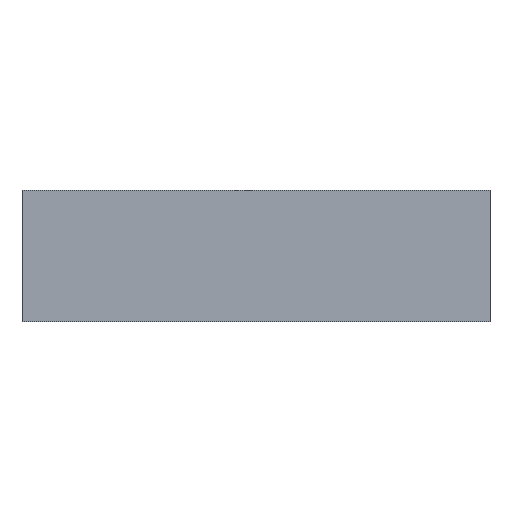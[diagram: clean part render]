
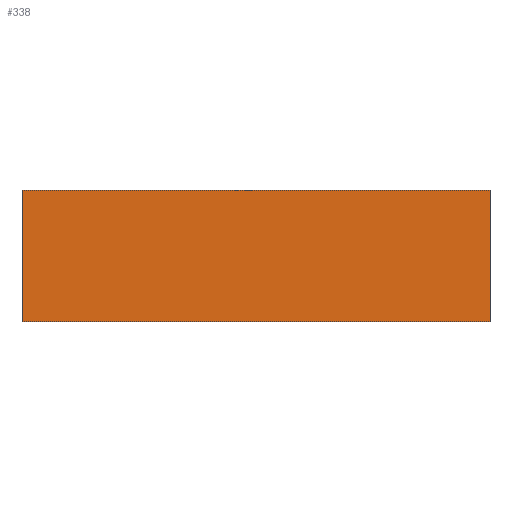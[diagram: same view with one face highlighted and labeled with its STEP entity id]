
A CAD part, top view. The second image highlights one B-rep face of the part: STEP entity #338.
In plain terms, the highlighted planar face has unit normal (0, 0, 1).
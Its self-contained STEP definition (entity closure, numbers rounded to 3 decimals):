
#24 = VERTEX_POINT('',#25);
#25 = CARTESIAN_POINT('',(-213.5,-99.,-0.62));
#32 = PLANE('',#33);
#33 = AXIS2_PLACEMENT_3D('',#34,#35,#36);
#34 = CARTESIAN_POINT('',(-213.5,-99.,-2.62));
#35 = DIRECTION('',(1.,0.,0.));
#36 = DIRECTION('',(0.,0.,1.));
#44 = PLANE('',#45);
#45 = AXIS2_PLACEMENT_3D('',#46,#47,#48);
#46 = CARTESIAN_POINT('',(-213.5,-99.,-2.62));
#47 = DIRECTION('',(0.,1.,0.));
#48 = DIRECTION('',(0.,0.,1.));
#85 = VERTEX_POINT('',#86);
#86 = CARTESIAN_POINT('',(-213.5,-85.,-0.62));
#100 = PLANE('',#101);
#101 = AXIS2_PLACEMENT_3D('',#102,#103,#104);
#102 = CARTESIAN_POINT('',(-213.5,-85.,-2.62));
#103 = DIRECTION('',(0.,1.,0.));
#104 = DIRECTION('',(0.,0.,1.));
#112 = EDGE_CURVE('',#24,#85,#113,.T.);
#113 = SURFACE_CURVE('',#114,(#118,#125),.PCURVE_S1.);
#114 = LINE('',#115,#116);
#115 = CARTESIAN_POINT('',(-213.5,-99.,-0.62));
#116 = VECTOR('',#117,1.);
#117 = DIRECTION('',(0.,1.,0.));
#118 = PCURVE('',#32,#119);
#119 = DEFINITIONAL_REPRESENTATION('',(#120),#124);
#120 = LINE('',#121,#122);
#121 = CARTESIAN_POINT('',(2.,0.));
#122 = VECTOR('',#123,1.);
#123 = DIRECTION('',(0.,-1.));
#124 = ( GEOMETRIC_REPRESENTATION_CONTEXT(2) 
PARAMETRIC_REPRESENTATION_CONTEXT() REPRESENTATION_CONTEXT('2D SPACE',''
  ) );
#125 = PCURVE('',#126,#131);
#126 = PLANE('',#127);
#127 = AXIS2_PLACEMENT_3D('',#128,#129,#130);
#128 = CARTESIAN_POINT('',(-213.5,-99.,-0.62));
#129 = DIRECTION('',(0.,0.,1.));
#130 = DIRECTION('',(1.,0.,0.));
#131 = DEFINITIONAL_REPRESENTATION('',(#132),#136);
#132 = LINE('',#133,#134);
#133 = CARTESIAN_POINT('',(0.,0.));
#134 = VECTOR('',#135,1.);
#135 = DIRECTION('',(0.,1.));
#136 = ( GEOMETRIC_REPRESENTATION_CONTEXT(2) 
PARAMETRIC_REPRESENTATION_CONTEXT() REPRESENTATION_CONTEXT('2D SPACE',''
  ) );
#144 = VERTEX_POINT('',#145);
#145 = CARTESIAN_POINT('',(-163.5,-99.,-0.62));
#152 = PLANE('',#153);
#153 = AXIS2_PLACEMENT_3D('',#154,#155,#156);
#154 = CARTESIAN_POINT('',(-163.5,-99.,-2.62));
#155 = DIRECTION('',(1.,0.,0.));
#156 = DIRECTION('',(0.,0.,1.));
#195 = VERTEX_POINT('',#196);
#196 = CARTESIAN_POINT('',(-163.5,-85.,-0.62));
#217 = EDGE_CURVE('',#144,#195,#218,.T.);
#218 = SURFACE_CURVE('',#219,(#223,#230),.PCURVE_S1.);
#219 = LINE('',#220,#221);
#220 = CARTESIAN_POINT('',(-163.5,-99.,-0.62));
#221 = VECTOR('',#222,1.);
#222 = DIRECTION('',(0.,1.,0.));
#223 = PCURVE('',#152,#224);
#224 = DEFINITIONAL_REPRESENTATION('',(#225),#229);
#225 = LINE('',#226,#227);
#226 = CARTESIAN_POINT('',(2.,0.));
#227 = VECTOR('',#228,1.);
#228 = DIRECTION('',(0.,-1.));
#229 = ( GEOMETRIC_REPRESENTATION_CONTEXT(2) 
PARAMETRIC_REPRESENTATION_CONTEXT() REPRESENTATION_CONTEXT('2D SPACE',''
  ) );
#230 = PCURVE('',#126,#231);
#231 = DEFINITIONAL_REPRESENTATION('',(#232),#236);
#232 = LINE('',#233,#234);
#233 = CARTESIAN_POINT('',(50.,0.));
#234 = VECTOR('',#235,1.);
#235 = DIRECTION('',(0.,1.));
#236 = ( GEOMETRIC_REPRESENTATION_CONTEXT(2) 
PARAMETRIC_REPRESENTATION_CONTEXT() REPRESENTATION_CONTEXT('2D SPACE',''
  ) );
#263 = EDGE_CURVE('',#24,#144,#264,.T.);
#264 = SURFACE_CURVE('',#265,(#269,#276),.PCURVE_S1.);
#265 = LINE('',#266,#267);
#266 = CARTESIAN_POINT('',(-213.5,-99.,-0.62));
#267 = VECTOR('',#268,1.);
#268 = DIRECTION('',(1.,0.,0.));
#269 = PCURVE('',#44,#270);
#270 = DEFINITIONAL_REPRESENTATION('',(#271),#275);
#271 = LINE('',#272,#273);
#272 = CARTESIAN_POINT('',(2.,0.));
#273 = VECTOR('',#274,1.);
#274 = DIRECTION('',(0.,1.));
#275 = ( GEOMETRIC_REPRESENTATION_CONTEXT(2) 
PARAMETRIC_REPRESENTATION_CONTEXT() REPRESENTATION_CONTEXT('2D SPACE',''
  ) );
#276 = PCURVE('',#126,#277);
#277 = DEFINITIONAL_REPRESENTATION('',(#278),#282);
#278 = LINE('',#279,#280);
#279 = CARTESIAN_POINT('',(0.,0.));
#280 = VECTOR('',#281,1.);
#281 = DIRECTION('',(1.,0.));
#282 = ( GEOMETRIC_REPRESENTATION_CONTEXT(2) 
PARAMETRIC_REPRESENTATION_CONTEXT() REPRESENTATION_CONTEXT('2D SPACE',''
  ) );
#310 = EDGE_CURVE('',#85,#195,#311,.T.);
#311 = SURFACE_CURVE('',#312,(#316,#323),.PCURVE_S1.);
#312 = LINE('',#313,#314);
#313 = CARTESIAN_POINT('',(-213.5,-85.,-0.62));
#314 = VECTOR('',#315,1.);
#315 = DIRECTION('',(1.,0.,0.));
#316 = PCURVE('',#100,#317);
#317 = DEFINITIONAL_REPRESENTATION('',(#318),#322);
#318 = LINE('',#319,#320);
#319 = CARTESIAN_POINT('',(2.,0.));
#320 = VECTOR('',#321,1.);
#321 = DIRECTION('',(0.,1.));
#322 = ( GEOMETRIC_REPRESENTATION_CONTEXT(2) 
PARAMETRIC_REPRESENTATION_CONTEXT() REPRESENTATION_CONTEXT('2D SPACE',''
  ) );
#323 = PCURVE('',#126,#324);
#324 = DEFINITIONAL_REPRESENTATION('',(#325),#329);
#325 = LINE('',#326,#327);
#326 = CARTESIAN_POINT('',(0.,14.));
#327 = VECTOR('',#328,1.);
#328 = DIRECTION('',(1.,0.));
#329 = ( GEOMETRIC_REPRESENTATION_CONTEXT(2) 
PARAMETRIC_REPRESENTATION_CONTEXT() REPRESENTATION_CONTEXT('2D SPACE',''
  ) );
#338 = ADVANCED_FACE('',(#339),#126,.T.);
#339 = FACE_BOUND('',#340,.T.);
#340 = EDGE_LOOP('',(#341,#342,#343,#344));
#341 = ORIENTED_EDGE('',*,*,#112,.F.);
#342 = ORIENTED_EDGE('',*,*,#263,.T.);
#343 = ORIENTED_EDGE('',*,*,#217,.T.);
#344 = ORIENTED_EDGE('',*,*,#310,.F.);
